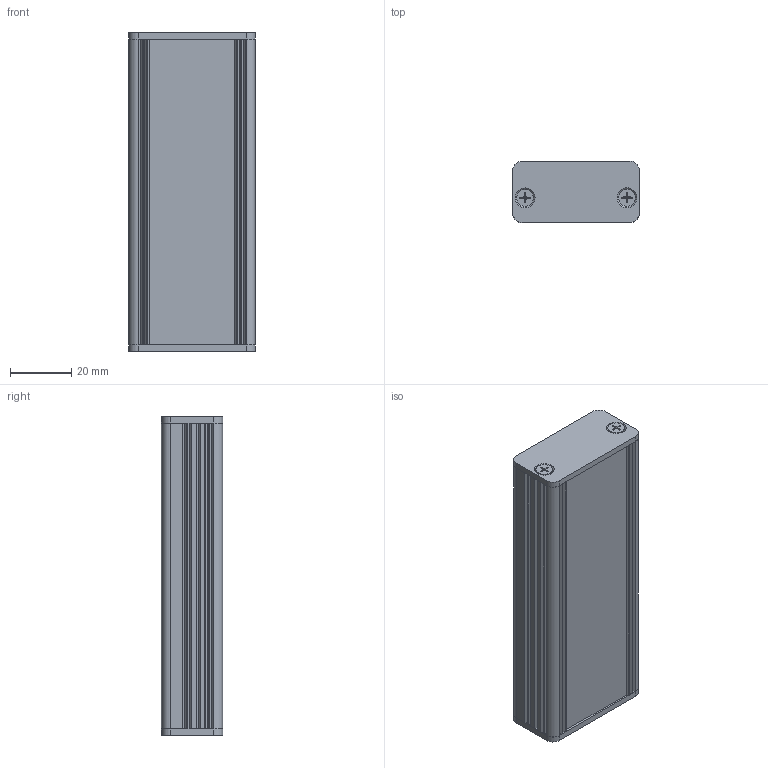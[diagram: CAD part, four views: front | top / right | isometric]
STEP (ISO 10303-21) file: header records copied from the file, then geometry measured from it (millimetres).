
FILE_DESCRIPTION((''),'2;1');
FILE_NAME('C:\Dokumente und Einstellungen\Lochen\Desktop\AKG\AKG_41_20_100.stp','2015-01-15T13:36:57',('Lochen'),(''),'Autodesk Inventor 2012','Autodesk Inventor 2012','');
FILE_SCHEMA(('AUTOMOTIVE_DESIGN { 1 0 10303 214 1 1 1 1 }'));
Length unit declared in the file: millimetre
Products named in the file (5): 001039187; 001032036; 001032082; DIN EN ISO 7046-1 H M3 x 10 - 4.8 - H; L0015SGD000012A
Assembly tree (8 placements, depth 2):
  001039187
    001032036
    001032082
    DIN EN ISO 7046-1 H M3 x 10 - 4.8 - H  x4
    L0015SGD000012A  x2
Bounding box: 41.32 x 20.04 x 104 mm (x, y, z)
Volume: 25450.1 mm3; surface area: 33062.2 mm2
Topology: 8 solids, 8 shells, 362 faces, 1010 edges, 664 vertices
Faces by surface type: plane 146, cylinder 144, cone 52, torus 20
Full cylindrical faces by diameter (mm): 2.693 x4, 3 x4, 3.4 x4, 5.5 x4
Entity records: 8734 total; most frequent: CARTESIAN_POINT 1613, DIRECTION 1528, ORIENTED_EDGE 1456, EDGE_CURVE 728, AXIS2_PLACEMENT_3D 549, VERTEX_POINT 490, VECTOR 430, LINE 430
